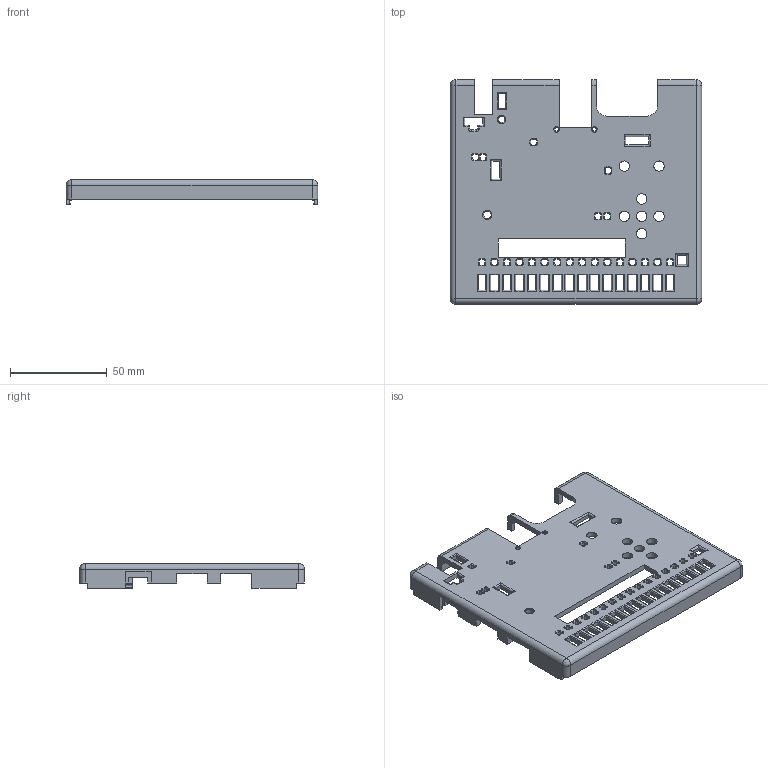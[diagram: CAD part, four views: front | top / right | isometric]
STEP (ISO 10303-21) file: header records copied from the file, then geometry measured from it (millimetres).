
FILE_DESCRIPTION(/* description */ ('STEP AP242 Edition 2','CAx-IF Rec.Pracs.---Representation and Presentation of Product Manufacturing Information (PMI)---4.0---2014-10-13','CAx-IF Rec.Pracs.---3D Tessellated Geometry---0.4---2014-09-14','2;1','CAx-IF Rec.Pracs.---User Defined Attributes---1.5---2016-08-15'),/* implementation_level */ '2;1');
FILE_NAME(/* name */ 'Untitled - Default',/* time_stamp */ '2026-05-27T17:42:02Z',/* author */ (''),/* organization */ (''),/* preprocessor_version */ 'ST-DEVELOPER v20',/* originating_system */ 'ONSHAPE BY PTC INC, 1.215',/* authorisation */ ' ');
FILE_SCHEMA (('AP242_MANAGED_MODEL_BASED_3D_ENGINEERING_MIM_LF { 1 0 10303 442 3 1 4 }'));
Length unit declared in the file: metre
Products named in the file (1): Default
Bounding box: 130.36 x 116.46 x 12.92 mm (x, y, z)
Volume: 42200.6 mm3; surface area: 34032 mm2
Topology: 1 solids, 1 shells, 697 faces, 1799 edges, 1098 vertices
Faces by surface type: cylinder 320, plane 272, torus 99, sphere 6
Full cylindrical faces by diameter (mm): 2 x2, 4 x1, 5.35 x7
Entity records: 21181 total; most frequent: DIRECTION 3846, CARTESIAN_POINT 3580, ORIENTED_EDGE 3560, EDGE_CURVE 1780, AXIS2_PLACEMENT_3D 1369, LINE 1108, VECTOR 1108, VERTEX_POINT 1098
